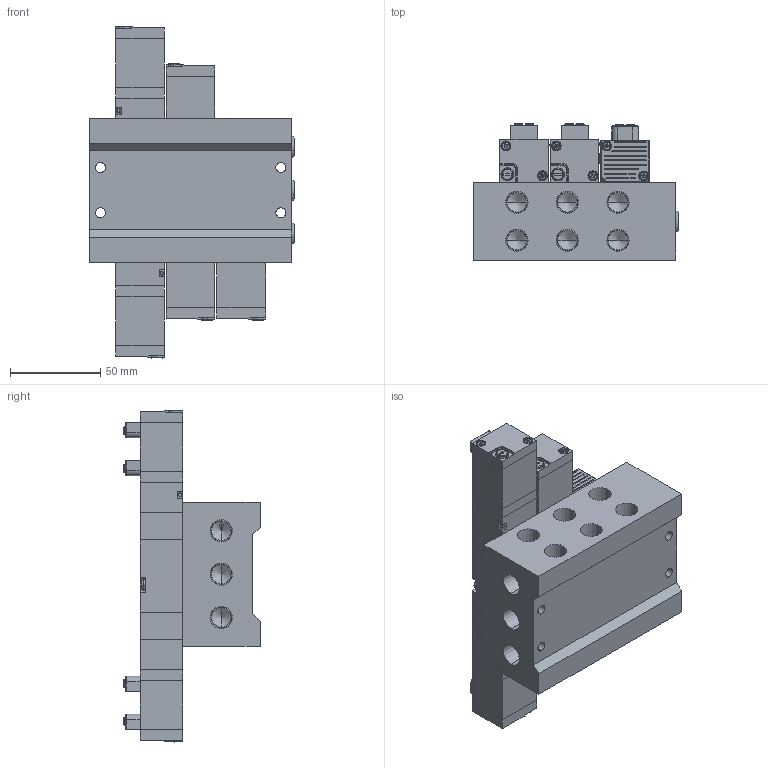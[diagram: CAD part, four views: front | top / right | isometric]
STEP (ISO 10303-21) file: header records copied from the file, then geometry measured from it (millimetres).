
FILE_DESCRIPTION (( 'STEP AP203' ), '1' );
FILE_NAME ('MFS#-PC06-02-L.STEP', '2016-02-04T05:36:35', ( 'Sam Lin' ), ( '' ), 'SwSTEP 2.0', 'SolidWorks 2013', '' );
FILE_SCHEMA (( 'CONFIG_CONTROL_DESIGN' ));
Length unit declared in the file: metre
Products named in the file (15): PC6-M4; PCS2406-9; PCS2406-8; PC06-MARK; MFS#-PC06-02; PCS2406-7-L; PCS2406-4; PCS2406-10; PCS2406-5; PCS2406-11-T=6; PCS2406-6; 承頭; PC6-M3; MFS#-PC06-02-L; PCS2406-3-小圓珠
Assembly tree (59 placements, depth 2):
  MFS#-PC06-02-L
    MFS#-PC06-02
    PCS2406-4  x3
    PCS2406-5  x5
    PCS2406-6
    PC6-M3  x12
    PCS2406-3-小圓珠  x6
    PC6-M4  x6
    PCS2406-8  x5
    PCS2406-9  x5
    PC06-MARK  x3
    PCS2406-7-L  x5
    PCS2406-10  x2
    PCS2406-11-T=6  x2
    承頭  x3
Bounding box: 113.51 x 75.5 x 184 mm (x, y, z)
Volume: 614270.8 mm3; surface area: 127335.4 mm2
Topology: 77 solids, 77 shells, 1571 faces, 3874 edges, 2434 vertices
Faces by surface type: plane 851, cylinder 280, bspline 227, cone 213
Entity records: 17234 total; most frequent: CARTESIAN_POINT 4170, DIRECTION 2134, ORIENTED_EDGE 2088, EDGE_CURVE 1044, AXIS2_PLACEMENT_3D 775, VERTEX_POINT 686, VECTOR 584, LINE 584
